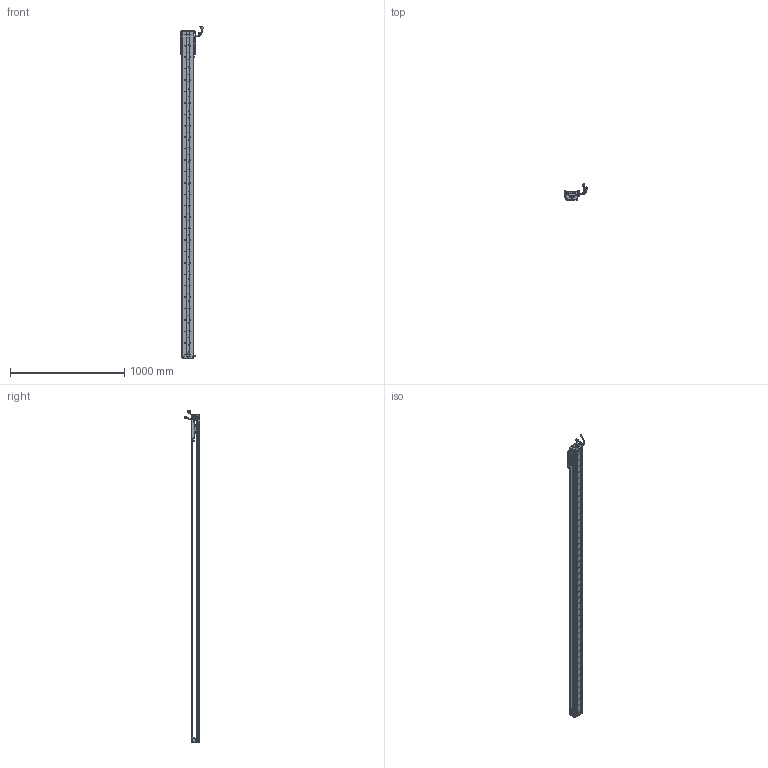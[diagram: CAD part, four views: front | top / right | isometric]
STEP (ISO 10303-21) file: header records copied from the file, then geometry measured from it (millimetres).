
FILE_DESCRIPTION (( 'STEP AP203' ), '1' );
FILE_NAME ('Z2-RY100D-1-L500-B-K.SLDASM_2600.step', '2021-05-17T02:38:08', ( '盈信电脑' ), ( '东莞市道滘镇水果街19号' ), 'SwSTEP 2.0', 'SolidWorks 2016', '' );
FILE_SCHEMA (( 'CONFIG_CONTROL_DESIGN' ));
Length unit declared in the file: millimetre
Products named in the file (36): SHIELDPLATE; Z2-RY100铝滑块（21款）; Z2-RY100D-1-L500-B-K.SLDASM_2600; Z-RY100D覜茼んえ; COVER; HARNESS-Part-2; SCREW-M1.7-1; SCREW-M1.6-1; Z-RY100D詩湍奻揤裔; SEAL; Z-100詩湍傷裔啣; 140雄赽晤鎢ん堤盄; Z2-RY100D-500-倰第菁釱_2600; HARNESS; 080黍杅芛假蚾釱21遴; SCREW-M1.6-3; SCREW-M1.6; 140蚥薯蝶輸; Z-RY100D詩湍狟揤裔; SEAL-Part-1; 榋妏寠巭燃_暯_M2_2; HOLDER0; HARNESS-Part-1; 覜茼ん672; LABEL-Part-1; PSLH080_PSLF2; SCREW-M1.6-2; PBU_SHEET; SCALE-Part-2; 100-Z-臏賑輸盄裔(21遴); SCALE-Part-1; SCALE; COVER-Part-1; LABEL; SCREW-M1.7; Z2-RY100-L500詩湍90mm遵_2600
Assembly tree (43 placements, depth 4):
  Z2-RY100D-1-L500-B-K.SLDASM_2600
    Z2-RY100D-500-倰第菁釱_2600
    Z2-RY100铝滑块（21款）
    PSLH080_PSLF2
      SCALE
        SCALE-Part-1
        SCALE-Part-2
      HARNESS
        HARNESS-Part-1
        HARNESS-Part-2
      LABEL
        LABEL-Part-1
      COVER
        COVER-Part-1
      SEAL
        SEAL-Part-1
      榋妏寠巭燃_暯_M2_2
      SHIELDPLATE
      SCREW-M1.7
      SCREW-M1.7-1
      PBU_SHEET
      SCREW-M1.6
      SCREW-M1.6-1
      SCREW-M1.6-2
      SCREW-M1.6-3
      HOLDER0
    080黍杅芛假蚾釱21遴
    Z-100詩湍傷裔啣  x2
    140蚥薯蝶輸  x2
    覜茼ん672  x3
    Z-RY100D覜茼んえ  x3
    100-Z-臏賑輸盄裔(21遴)
    140雄赽晤鎢ん堤盄
    Z2-RY100-L500詩湍90mm遵_2600
    Z-RY100D詩湍狟揤裔  x2
    Z-RY100D詩湍奻揤裔  x2
Bounding box: 205.79 x 136.11 x 2905.43 mm (x, y, z)
Volume: 5169435.1 mm3; surface area: 2056473.6 mm2
Topology: 38 solids, 38 shells, 3056 faces, 8391 edges, 5368 vertices
Faces by surface type: cylinder 1522, plane 1194, cone 218, torus 69, bspline 53
Entity records: 89267 total; most frequent: CARTESIAN_POINT 18716, DIRECTION 14407, ORIENTED_EDGE 13678, EDGE_CURVE 6839, AXIS2_PLACEMENT_3D 5427, VERTEX_POINT 4436, VECTOR 3553, LINE 3553
